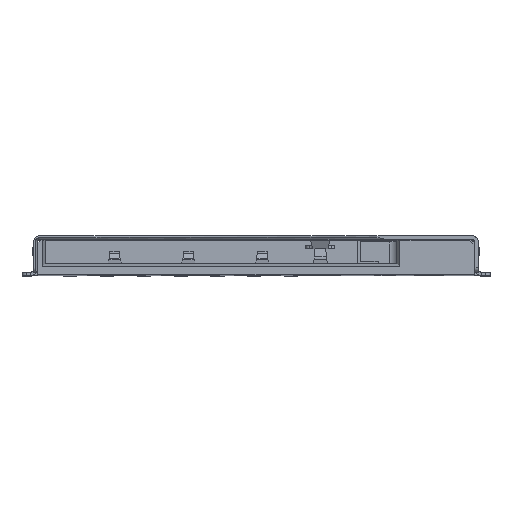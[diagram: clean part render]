
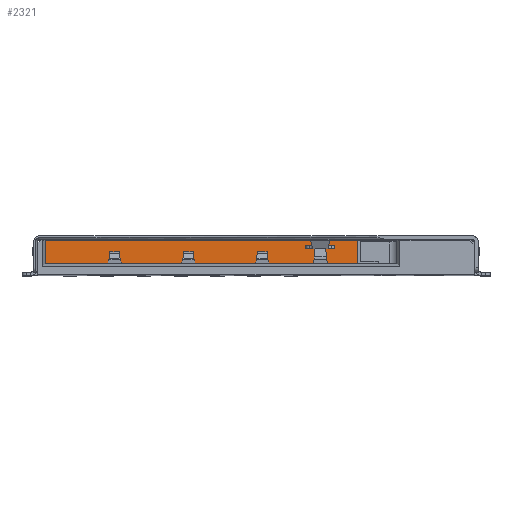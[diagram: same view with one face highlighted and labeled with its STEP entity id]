
A CAD part, top view. The second image highlights one B-rep face of the part: STEP entity #2321.
In plain terms, the highlighted planar face has unit normal (0, 0, 1).
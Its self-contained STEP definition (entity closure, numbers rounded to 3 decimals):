
#315=CARTESIAN_POINT('Vertex',(-11.437,2.336,-6.5)) ;
#318=CARTESIAN_POINT('Line Origine',(-6.067,2.336,-6.5)) ;
#322=CARTESIAN_POINT('Vertex',(-0.697,2.336,-6.5)) ;
#440=CARTESIAN_POINT('Line Origine',(-0.697,1.931,-6.5)) ;
#444=CARTESIAN_POINT('Vertex',(-0.697,1.526,-6.5)) ;
#471=CARTESIAN_POINT('Line Origine',(-6.067,1.526,-6.5)) ;
#475=CARTESIAN_POINT('Vertex',(-11.437,1.526,-6.5)) ;
#2298=CARTESIAN_POINT('Line Origine',(-11.437,1.931,-6.5)) ;
#2310=CARTESIAN_POINT('Axis2P3D Location',(-6.067,1.931,-6.5)) ;
#319=DIRECTION('Vector Direction',(1.,0.,0.)) ;
#441=DIRECTION('Vector Direction',(0.,1.,0.)) ;
#472=DIRECTION('Vector Direction',(-1.,0.,0.)) ;
#2299=DIRECTION('Vector Direction',(0.,1.,0.)) ;
#2311=DIRECTION('Axis2P3D Direction',(0.,0.,1.)) ;
#2312=DIRECTION('Axis2P3D XDirection',(-1.,0.,0.)) ;
#2313=AXIS2_PLACEMENT_3D('Plane Axis2P3D',#2310,#2311,#2312) ;
#2316=ORIENTED_EDGE('',*,*,#324,.F.) ;
#2317=ORIENTED_EDGE('',*,*,#2302,.F.) ;
#2318=ORIENTED_EDGE('',*,*,#477,.F.) ;
#2319=ORIENTED_EDGE('',*,*,#446,.T.) ;
#320=VECTOR('Line Direction',#319,1.) ;
#442=VECTOR('Line Direction',#441,1.) ;
#473=VECTOR('Line Direction',#472,1.) ;
#2300=VECTOR('Line Direction',#2299,1.) ;
#2321=ADVANCED_FACE('',(#2320),#2314,.T.) ;
#324=EDGE_CURVE('',#316,#323,#321,.T.) ;
#446=EDGE_CURVE('',#445,#323,#443,.T.) ;
#477=EDGE_CURVE('',#445,#476,#474,.T.) ;
#2302=EDGE_CURVE('',#476,#316,#2301,.T.) ;
#2315=EDGE_LOOP('',(#2316,#2317,#2318,#2319)) ;
#2320=FACE_OUTER_BOUND('',#2315,.T.) ;
#321=LINE('Line',#318,#320) ;
#443=LINE('Line',#440,#442) ;
#474=LINE('Line',#471,#473) ;
#2301=LINE('Line',#2298,#2300) ;
#2314=PLANE('Plane',#2313) ;
#316=VERTEX_POINT('',#315) ;
#323=VERTEX_POINT('',#322) ;
#445=VERTEX_POINT('',#444) ;
#476=VERTEX_POINT('',#475) ;
